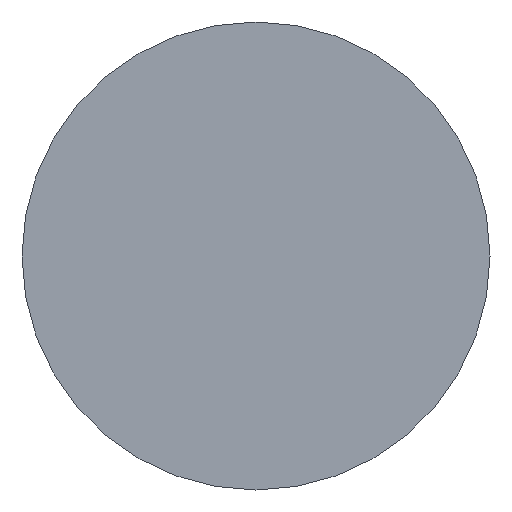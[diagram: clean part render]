
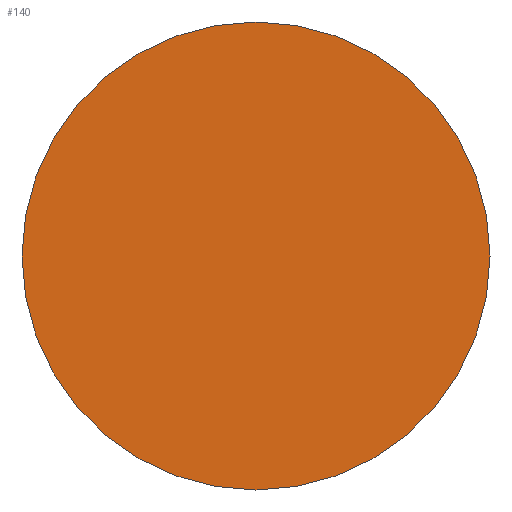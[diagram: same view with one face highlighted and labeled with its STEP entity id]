
A CAD part, front view. The second image highlights one B-rep face of the part: STEP entity #140.
In plain terms, the highlighted planar face has unit normal (0, -1, 0).
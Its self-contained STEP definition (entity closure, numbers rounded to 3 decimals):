
#24 = VERTEX_POINT('',#25);
#25 = CARTESIAN_POINT('',(41.,-79.,43.));
#32 = CYLINDRICAL_SURFACE('',#33,3.);
#33 = AXIS2_PLACEMENT_3D('',#34,#35,#36);
#34 = CARTESIAN_POINT('',(38.,-76.,43.));
#35 = DIRECTION('',(-0.,1.,0.));
#36 = DIRECTION('',(1.,0.,0.));
#51 = EDGE_CURVE('',#24,#24,#52,.T.);
#52 = SURFACE_CURVE('',#53,(#58,#65),.PCURVE_S1.);
#53 = CIRCLE('',#54,3.);
#54 = AXIS2_PLACEMENT_3D('',#55,#56,#57);
#55 = CARTESIAN_POINT('',(38.,-79.,43.));
#56 = DIRECTION('',(0.,-1.,0.));
#57 = DIRECTION('',(1.,0.,0.));
#58 = PCURVE('',#32,#59);
#59 = DEFINITIONAL_REPRESENTATION('',(#60),#64);
#60 = LINE('',#61,#62);
#61 = CARTESIAN_POINT('',(-0.,-3.));
#62 = VECTOR('',#63,1.);
#63 = DIRECTION('',(-1.,0.));
#64 = ( GEOMETRIC_REPRESENTATION_CONTEXT(2) 
PARAMETRIC_REPRESENTATION_CONTEXT() REPRESENTATION_CONTEXT('2D SPACE',''
  ) );
#65 = PCURVE('',#66,#71);
#66 = PLANE('',#67);
#67 = AXIS2_PLACEMENT_3D('',#68,#69,#70);
#68 = CARTESIAN_POINT('',(38.,-79.,43.));
#69 = DIRECTION('',(0.,-1.,0.));
#70 = DIRECTION('',(1.,0.,0.));
#71 = DEFINITIONAL_REPRESENTATION('',(#72),#76);
#72 = CIRCLE('',#73,3.);
#73 = AXIS2_PLACEMENT_2D('',#74,#75);
#74 = CARTESIAN_POINT('',(0.,0.));
#75 = DIRECTION('',(1.,0.));
#76 = ( GEOMETRIC_REPRESENTATION_CONTEXT(2) 
PARAMETRIC_REPRESENTATION_CONTEXT() REPRESENTATION_CONTEXT('2D SPACE',''
  ) );
#140 = ADVANCED_FACE('',(#141),#66,.T.);
#141 = FACE_BOUND('',#142,.T.);
#142 = EDGE_LOOP('',(#143));
#143 = ORIENTED_EDGE('',*,*,#51,.T.);
